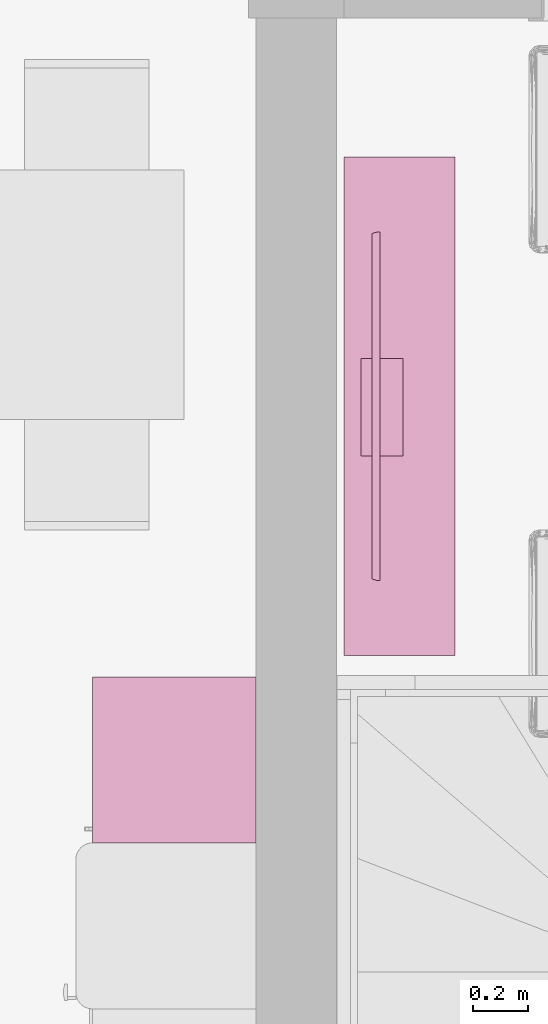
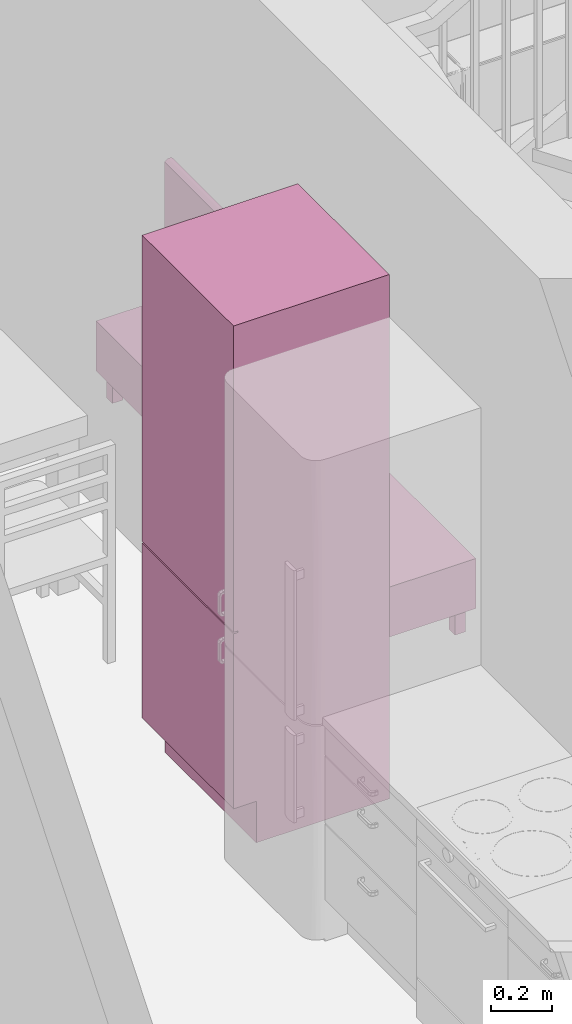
# One storey, part 43 of 65: 2 furnishings.
"""IFC2X3 building model written with IfcOpenShell, lengths in millimetres."""

from ifc_helpers import new_model, entity, si_unit, converted_unit, direction, frame, frame_2d, origin, origin_2d_with_axis, place, context, subcontext, project, spatial, rectangle, extrude, faceted_brep, source, transform, mapped, material, material_list, type_object, type_shapes, element, save


model = new_model("IFC2X3")

# Units and contexts
model_context = context("Model", 3, precision=0.01, world=origin(), true_north=direction((0.0, 1.0)))
body_context = subcontext(model_context, "Body", "Model", "MODEL_VIEW")
ifc_project = project(units=[si_unit("LENGTHUNIT", "METRE", prefix="MILLI"), si_unit("AREAUNIT", "SQUARE_METRE"), si_unit("VOLUMEUNIT", "CUBIC_METRE"), converted_unit("PLANEANGLEUNIT", "DEGREE", entity("IfcPlaneAngleMeasure", 0.017453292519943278), si_unit("PLANEANGLEUNIT", "RADIAN"), dimensions=[0, 0, 0, 0, 0, 0, 0])], contexts=[model_context])

# Site, building, storey, space
site_placement = place(None, origin())
site = spatial("IfcSite", under=ifc_project, at=site_placement, Name="Default", CompositionType="ELEMENT")
building_placement = place(site_placement, origin())
building = spatial("IfcBuilding", under=site, at=building_placement, CompositionType="ELEMENT")
storey_placement = place(building_placement, origin())
storey = spatial("IfcBuildingStorey", under=building, at=storey_placement, Name="Et. 1", CompositionType="ELEMENT", Elevation=0.0)
space_1_placement = place(storey_placement, origin())
space_1 = spatial("IfcSpace", under=storey, at=space_1_placement, Name="113", CompositionType="ELEMENT", InteriorOrExteriorSpace="INTERNAL")

# Furnishing
ifc_material_1 = material(Name="Focus - TV - Sort")
ifc_material_2 = material(Name="Focus - Metall - Krom")
ifc_material_3 = material(Name="Focus - Møbler - Hvit")
ifc_material_list_1 = material_list([ifc_material_1, ifc_material_2, ifc_material_3])
furniture_type_1 = type_object("IfcFurnitureType", Name="TV bord (1):TV bord 1800x400x300", AssemblyPlace="NOTDEFINED", material=ifc_material_list_1)
shared_shape_1 = source(origin(), body_context, "Body", "Brep", [
    faceted_brep([(535.1044252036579, 528.5550193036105, 322.4792366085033), (535.1044252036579, 526.6842377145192, 323.47298199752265), (535.1044252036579, 525.9363454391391, 325.45490298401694), (535.1044252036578, 525.9363454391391, 370.0), (535.1044252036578, 513.9363454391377, 370.0), (535.1044252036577, 474.47496908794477, 322.83260995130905), (535.1044252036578, 474.47496908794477, 300.0), (535.1044252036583, 625.9363454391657, 300.0), (535.1044252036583, 625.9363454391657, 310.0), (182.12411793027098, 474.47496908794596, 322.83260995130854), (182.12411793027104, 513.9363454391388, 370.0), (182.12411793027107, 525.9363454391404, 370.0), (182.12411793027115, 525.9363454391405, 325.4549029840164), (182.12411793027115, 526.6842377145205, 323.4729819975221), (182.12411793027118, 528.5550193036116, 322.47923660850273), (182.12411793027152, 625.9363454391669, 310.0), (182.12411793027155, 625.9363454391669, 300.0), (182.124117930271, 474.47496908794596, 300.0), (519.984899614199, 525.9363454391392, 325.454902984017), (504.86537605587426, 525.9363454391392, 325.45490298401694), (490.9818870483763, 525.9363454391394, 325.45490298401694), (468.92061695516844, 525.9363454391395, 325.4549029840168), (446.8593468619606, 525.9363454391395, 325.4549029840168), (424.7980767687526, 525.9363454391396, 325.45490298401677), (402.73680870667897, 525.9363454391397, 325.45490298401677), (380.67554064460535, 525.9363454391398, 325.45490298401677), (358.6142705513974, 525.9363454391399, 325.45490298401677), (344.73078154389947, 525.9363454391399, 325.4549029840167), (330.84729050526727, 525.9363454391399, 325.45490298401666), (316.963799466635, 525.9363454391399, 325.45490298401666), (303.0803104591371, 525.93634543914, 325.45490298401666), (287.9607869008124, 525.9363454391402, 325.45490298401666), (272.84126334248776, 525.9363454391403, 325.45490298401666), (257.72173978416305, 525.9363454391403, 325.4549029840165), (242.60221419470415, 525.9363454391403, 325.4549029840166), (227.48268860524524, 525.9363454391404, 325.4549029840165), (212.36316504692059, 525.9363454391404, 325.4549029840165), (197.24364148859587, 525.9363454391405, 325.4549029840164), (197.24364190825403, 528.5550193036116, 322.47923660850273), (212.36316595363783, 528.5550193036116, 322.4792366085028), (227.4826899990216, 528.5550193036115, 322.4792366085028), (242.60221397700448, 528.5550193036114, 322.4792366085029), (257.72173795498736, 528.5550193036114, 322.4792366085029), (272.8412620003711, 528.5550193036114, 322.4792366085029), (287.96078604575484, 528.5550193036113, 322.47923660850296), (303.08031002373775, 528.5550193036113, 322.47923660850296), (318.1998340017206, 528.5550193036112, 322.47923660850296), (333.31935804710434, 528.5550193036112, 322.479236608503), (348.43888209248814, 528.5550193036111, 322.479236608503), (363.558406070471, 528.5550193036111, 322.479236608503), (378.6779300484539, 528.5550193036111, 322.4792366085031), (393.7974540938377, 528.555019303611, 322.47923660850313), (408.9169781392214, 528.555019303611, 322.47923660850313), (424.03650211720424, 528.5550193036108, 322.47923660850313), (437.91999249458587, 528.5550193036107, 322.47923660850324), (451.80348287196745, 528.5550193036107, 322.47923660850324), (465.6869732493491, 528.5550193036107, 322.4792366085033), (479.57046362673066, 528.5550193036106, 322.4792366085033), (493.4539540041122, 528.5550193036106, 322.4792366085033), (507.3374443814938, 528.5550193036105, 322.4792366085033), (519.984901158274, 528.5550193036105, 322.47923660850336), (337.68066245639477, 526.6430406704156, 323.52080028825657), (224.27890068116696, 526.6842377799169, 323.47298192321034), (204.80340727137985, 526.6842378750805, 323.4729818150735), (302.46229687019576, 526.7687345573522, 323.3809061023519), (287.96078948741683, 526.6842377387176, 323.47298197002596), (519.6968558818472, 526.6842377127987, 323.47298199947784), (239.91619314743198, 526.6842377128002, 323.4729819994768), (413.76744661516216, 526.6599675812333, 323.5009060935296), (397.7173638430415, 526.6694903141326, 323.4898666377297), (371.11817041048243, 526.6334825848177, 323.5321906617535), (441.27558772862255, 526.8083203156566, 323.34030867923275), (481.02976280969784, 526.5444504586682, 323.6441466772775), (497.92363261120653, 526.7462141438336, 323.40470179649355), (316.9638042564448, 526.6842377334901, 323.47298197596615), (458.7452292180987, 526.6028547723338, 323.56947960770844), (257.72174274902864, 526.6842376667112, 323.4729820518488), (354.04763371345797, 526.7922136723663, 323.35664204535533), (272.84126613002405, 526.6581872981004, 323.5029820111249)], [[[0, 1, 2, 3, 4, 5, 6, 7, 8]], [[9, 10, 11, 12, 13, 14, 15, 16, 17]], [[4, 3, 11, 10]], [[7, 6, 17, 16]], [[3, 2, 18, 19, 20, 21, 22, 23, 24, 25, 26, 27, 28, 29, 30, 31, 32, 33, 34, 35, 36, 37, 12, 11]], [[5, 4, 10, 9]], [[6, 5, 9, 17]], [[8, 7, 16, 15]], [[0, 8, 15, 14, 38, 39, 40, 41, 42, 43, 44, 45, 46, 47, 48, 49, 50, 51, 52, 53, 54, 55, 56, 57, 58, 59, 60]], [[61, 48, 47]], [[62, 63, 36]], [[30, 64, 65]], [[13, 12, 37]], [[18, 2, 1, 66, 19]], [[34, 67, 35]], [[68, 52, 69]], [[70, 69, 50]], [[68, 23, 71]], [[72, 20, 73]], [[62, 39, 63]], [[19, 73, 20]], [[29, 28, 74, 30]], [[31, 30, 65]], [[75, 56, 55]], [[57, 56, 72, 58]], [[44, 43, 65]], [[42, 41, 76, 43]], [[62, 35, 67]], [[13, 37, 63]], [[66, 1, 0, 60, 59]], [[38, 14, 13]], [[41, 40, 67]], [[67, 34, 76]], [[73, 58, 72]], [[63, 39, 38]], [[63, 38, 13]], [[40, 39, 62]], [[67, 40, 62]], [[72, 21, 20]], [[19, 66, 73]], [[49, 77, 70]], [[75, 55, 71]], [[75, 72, 56]], [[21, 72, 75]], [[75, 22, 21]], [[22, 75, 71]], [[68, 24, 23]], [[54, 53, 71, 55]], [[23, 22, 71]], [[37, 36, 63]], [[69, 24, 68]], [[53, 68, 71]], [[70, 26, 25]], [[49, 70, 50]], [[69, 70, 25]], [[25, 24, 69]], [[50, 69, 52, 51]], [[26, 70, 77]], [[61, 28, 27]], [[77, 48, 61]], [[27, 26, 77]], [[77, 49, 48]], [[68, 53, 52]], [[73, 59, 58]], [[76, 33, 78]], [[65, 43, 78]], [[41, 67, 76]], [[46, 45, 74, 47]], [[62, 36, 35]], [[47, 74, 61]], [[73, 66, 59]], [[77, 61, 27]], [[28, 61, 74]], [[74, 45, 64]], [[33, 32, 31, 78]], [[74, 64, 30]], [[76, 34, 33]], [[45, 44, 64]], [[65, 64, 44]], [[76, 78, 43]], [[65, 78, 31]]]),
    faceted_brep([(-274.1123280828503, 543.9363454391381, 1074.9426906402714), (-254.11232808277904, 543.936345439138, 1054.9426906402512), (-254.11232808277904, 543.936345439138, 370.0), (963.4518429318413, 543.9363454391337, 1054.942690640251), (-274.1123280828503, 543.9363454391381, 350.0), (983.45184293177, 543.9363454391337, 1074.9426906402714), (963.4518429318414, 543.9363454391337, 370.0), (983.45184293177, 543.9363454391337, 350.0), (871.2987961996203, 513.9363454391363, 1069.700820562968), (764.3876072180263, 513.9363454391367, 1069.700820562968), (657.4764182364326, 513.9363454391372, 1069.700820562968), (550.5652415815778, 513.9363454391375, 1069.700820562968), (452.61750258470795, 513.9363454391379, 1069.700820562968), (354.6697512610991, 513.9363454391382, 1069.700820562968), (276.7272251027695, 513.9363454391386, 1069.700820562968), (198.78469894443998, 513.9363454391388, 1069.700820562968), (120.84217278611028, 513.936345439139, 1069.700820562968), (42.8996466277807, 513.9363454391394, 1069.700820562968), (-35.042879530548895, 513.9363454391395, 1069.7008205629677), (-112.98540568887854, 513.9363454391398, 1069.700820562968), (-161.959281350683, 513.93634543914, 1069.700820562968), (-268.870458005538, 513.9363454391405, 1069.7008205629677), (-268.87045800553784, 513.9363454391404, 962.7896420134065), (-268.87045800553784, 513.9363454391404, 855.8784560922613), (-268.87045800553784, 513.9363454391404, 782.864436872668), (-268.87045800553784, 513.9363454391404, 709.850410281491), (-268.87045800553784, 513.9363454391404, 619.8878077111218), (-268.87045800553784, 513.9363454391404, 529.9252051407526), (-268.87045800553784, 513.9363454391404, 456.9111859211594), (-268.870458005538, 513.9363454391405, 350.0), (978.2099728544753, 513.936345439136, 350.0), (978.2099728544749, 513.9363454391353, 456.91117949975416), (978.2099728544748, 513.9363454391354, 563.8223660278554), (978.2099728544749, 513.9363454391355, 670.7335525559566), (978.209972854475, 513.9363454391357, 777.6447320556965), (978.209972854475, 513.9363454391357, 850.658757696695), (978.209972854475, 513.9363454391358, 923.6727763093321), (978.209972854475, 513.936345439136, 1016.245227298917), (978.2099728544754, 513.936345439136, 1069.700820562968), (983.45184293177, 540.9363454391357, 1074.9426906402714), (-274.1123280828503, 540.9363454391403, 1074.9426906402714), (-274.11232808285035, 530.9363454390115, 1074.9426906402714), (-167.20113860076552, 530.9363454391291, 1074.9426906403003), (-72.97496770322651, 530.9363454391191, 1074.942690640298), (27.593712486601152, 530.9363454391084, 1074.9426906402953), (128.16239267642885, 530.9363454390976, 1074.942690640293), (235.07358215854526, 530.9363454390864, 1074.9426906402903), (288.52916869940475, 530.9363454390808, 1074.942690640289), (341.98475524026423, 530.9363454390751, 1074.9426906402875), (448.89592832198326, 530.9363454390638, 1074.942690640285), (555.8071178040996, 530.9363454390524, 1074.942690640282), (662.7183072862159, 530.936345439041, 1074.9426906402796), (769.6294803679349, 530.9363454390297, 1074.9426906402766), (876.5406534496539, 530.9363454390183, 1074.942690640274), (983.45184293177, 530.9363454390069, 1074.9426906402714), (983.45184293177, 540.9363454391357, 350.0), (983.4518429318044, 530.9363454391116, 968.0315073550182), (983.4518429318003, 530.9363454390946, 893.7070161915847), (983.4518429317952, 530.936345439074, 803.0891825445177), (983.4518429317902, 530.9363454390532, 712.4713488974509), (983.451842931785, 530.9363454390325, 621.8535152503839), (983.45184293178, 530.9363454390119, 531.2356744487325), (983.4518429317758, 530.9363454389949, 456.911183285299), (983.45184293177, 530.9363454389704, 350.0), (981.0831520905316, 522.3585671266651, 350.0), (-271.7436372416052, 522.3585671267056, 350.0), (-274.1123280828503, 530.9363454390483, 350.0), (-274.1123280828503, 540.9363454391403, 350.0), (-274.1123280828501, 530.9363454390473, 403.4555910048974), (-274.1123280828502, 530.9363454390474, 498.64897772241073), (-274.11232808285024, 530.9363454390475, 572.973466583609), (-274.11232808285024, 530.9363454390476, 647.2979554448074), (-274.1123280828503, 530.9363454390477, 754.2091446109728), (-274.1123280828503, 530.9363454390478, 861.120326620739), (-274.1123280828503, 530.9363454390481, 968.0315086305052), (-254.11232808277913, 540.9363454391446, 1054.9426906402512), (963.4518429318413, 540.9363454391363, 1054.942690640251), (963.4518429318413, 540.9363454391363, 370.0), (-254.1123280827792, 540.9363454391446, 370.0), (-271.6079802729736, 521.9209899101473, 561.039955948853), (-272.0942324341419, 523.5120302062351, 807.6647388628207), (-271.6838000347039, 522.1649725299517, 1000.2475796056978), (-271.52856035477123, 521.6669815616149, 493.4181930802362), (-271.74968537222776, 522.3781866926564, 731.6126583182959), (-271.4604584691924, 521.4504221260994, 664.869113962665), (-271.64314636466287, 522.0339695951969, 424.4548075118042), (-272.03175870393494, 523.3040303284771, 936.0688543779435), (-271.7208591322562, 522.2847625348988, 871.778613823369), (-271.7425576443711, 522.3550660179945, 1072.5729202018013), (-204.66446821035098, 523.3287969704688, 1072.8695772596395), (-137.47234325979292, 522.5092649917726, 1072.6203800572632), (908.7567322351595, 522.1649725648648, 1072.5141626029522), (833.778825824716, 522.5817361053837, 1072.6426227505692), (-62.80278335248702, 522.0049948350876, 1072.4644995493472), (159.81344423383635, 522.0845569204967, 1072.4892230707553), (226.4217047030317, 521.9934399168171, 1072.4609048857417), (315.25696952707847, 521.9504164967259, 1072.4475115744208), (981.0820724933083, 522.3550660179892, 1072.5729202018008), (80.1835543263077, 522.8422800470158, 1072.7222575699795), (501.59138676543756, 522.559214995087, 1072.6357149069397), (392.4883252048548, 522.952944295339, 1072.7559254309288), (3.928384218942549, 521.850551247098, 1072.4163685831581), (566.2823689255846, 522.2857797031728, 1072.5515358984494), (646.0692239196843, 522.4365461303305, 1072.5980210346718), (710.9320272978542, 522.0760981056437, 1072.4865968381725), (772.290516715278, 522.6133420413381, 1072.6523106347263), (981.0831519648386, 522.3585667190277, 494.0734241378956), (981.2237700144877, 522.8172109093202, 560.7957970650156), (981.2987228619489, 523.0638411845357, 930.8692618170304), (981.2065184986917, 522.7606600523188, 863.377909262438), (981.1904531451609, 522.7080691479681, 998.9721352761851), (980.8231085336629, 521.5238622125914, 630.1745518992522), (981.0101229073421, 522.122416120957, 696.939627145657), (981.0709396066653, 522.318980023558, 422.0367118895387), (981.0159296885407, 522.1411428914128, 798.4273735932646)], [[[0, 1, 2]], [[1, 0, 3]], [[2, 4, 0]], [[5, 3, 0]], [[3, 5, 6]], [[7, 6, 5]], [[6, 7, 4]], [[4, 2, 6]], [[8, 9, 10, 11, 12, 13, 14, 15, 16, 17, 18, 19, 20, 21, 22, 23, 24, 25, 26, 27, 28, 29, 30, 31, 32, 33, 34, 35, 36, 37, 38]], [[39, 5, 0, 40, 41, 42, 43, 44, 45, 46, 47, 48, 49, 50, 51, 52, 53, 54]], [[55, 7, 5, 39, 54, 56, 57, 58, 59, 60, 61, 62, 63]], [[4, 7, 55, 63, 64, 30, 29, 65, 66, 67]], [[40, 0, 4, 67, 66, 68, 69, 70, 71, 72, 73, 74, 41]], [[75, 76, 77, 78]], [[3, 76, 75, 1]], [[2, 1, 75, 78]], [[2, 78, 77, 6]], [[6, 77, 76, 3]], [[69, 79, 71, 70]], [[80, 73, 72]], [[41, 74, 81]], [[82, 28, 27]], [[83, 71, 84]], [[79, 82, 27]], [[82, 85, 28]], [[86, 73, 87]], [[41, 81, 88]], [[72, 83, 80]], [[82, 79, 69]], [[73, 80, 87]], [[81, 21, 88]], [[68, 66, 65]], [[29, 28, 85]], [[82, 69, 85]], [[85, 69, 68]], [[84, 26, 25]], [[68, 65, 85]], [[29, 85, 65]], [[27, 26, 79]], [[79, 26, 84]], [[83, 84, 25]], [[79, 84, 71]], [[83, 24, 80]], [[71, 83, 72]], [[86, 81, 74]], [[87, 80, 23]], [[23, 22, 87]], [[22, 81, 86]], [[24, 83, 25]], [[24, 23, 80]], [[21, 81, 22]], [[73, 86, 74]], [[22, 86, 87]], [[42, 89, 90]], [[54, 53, 91]], [[8, 91, 92]], [[18, 93, 19]], [[46, 45, 94]], [[95, 96, 47]], [[19, 90, 20]], [[54, 91, 97]], [[98, 16, 94]], [[99, 12, 11]], [[99, 49, 100]], [[18, 17, 101]], [[46, 94, 95]], [[18, 101, 93]], [[102, 99, 11]], [[103, 102, 10]], [[52, 51, 104]], [[92, 9, 8]], [[91, 38, 97]], [[21, 20, 89]], [[41, 88, 89]], [[90, 89, 20]], [[43, 42, 90]], [[41, 89, 42]], [[44, 101, 98]], [[101, 43, 93]], [[89, 88, 21]], [[12, 99, 100]], [[96, 100, 48]], [[98, 101, 17]], [[43, 101, 44]], [[16, 15, 94]], [[44, 98, 45]], [[98, 17, 16]], [[43, 90, 93]], [[19, 93, 90]], [[94, 15, 95]], [[98, 94, 45]], [[96, 48, 47]], [[46, 95, 47]], [[95, 15, 14]], [[96, 95, 14]], [[14, 13, 96]], [[100, 96, 13]], [[12, 100, 13]], [[49, 48, 100]], [[10, 104, 103]], [[50, 49, 99]], [[9, 92, 105]], [[9, 104, 10]], [[103, 104, 51]], [[51, 50, 103]], [[102, 50, 99]], [[92, 91, 53]], [[38, 91, 8]], [[53, 52, 92]], [[105, 52, 104]], [[10, 102, 11]], [[103, 50, 102]], [[9, 105, 104]], [[92, 52, 105]], [[106, 61, 107]], [[108, 109, 57]], [[61, 106, 62]], [[108, 110, 36]], [[97, 110, 54]], [[111, 60, 112]], [[97, 38, 37]], [[113, 106, 31]], [[56, 108, 57]], [[109, 108, 36]], [[106, 107, 32]], [[63, 62, 113]], [[30, 64, 113]], [[106, 113, 62]], [[36, 110, 37]], [[32, 31, 106]], [[30, 113, 31]], [[113, 64, 63]], [[108, 56, 110]], [[114, 112, 59]], [[109, 114, 58]], [[36, 35, 109]], [[54, 110, 56]], [[97, 37, 110]], [[114, 35, 34]], [[58, 57, 109]], [[61, 60, 107]], [[112, 33, 111]], [[111, 32, 107]], [[111, 107, 60]], [[112, 60, 59]], [[32, 111, 33]], [[114, 59, 58]], [[34, 33, 112]], [[35, 114, 109]], [[112, 114, 34]]]),
    faceted_brep([(1229.6697574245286, 438.9363454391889, 0.0), (1229.6697574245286, 478.9363454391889, 0.0), (1229.6697574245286, 478.9363454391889, 80.0), (1229.669757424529, 748.9363454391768, 80.0), (1229.669757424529, 748.9363454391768, 0.0), (1229.669757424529, 788.9363454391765, 0.0), (1229.669757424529, 788.9363454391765, 100.0), (1229.6697574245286, 438.9363454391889, 100.0), (1189.6697574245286, 438.936345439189, 0.0), (1189.6697574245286, 438.936345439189, 100.0), (1189.669757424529, 788.9363454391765, 100.0), (1189.669757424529, 788.9363454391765, 0.0), (1189.669757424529, 748.9363454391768, 0.0), (1189.669757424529, 748.9363454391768, 80.0), (1189.6697574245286, 478.936345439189, 80.0), (1189.6697574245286, 478.936345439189, 0.0)], [[[0, 1, 2, 3, 4, 5, 6, 7]], [[8, 9, 10, 11, 12, 13, 14, 15]], [[1, 0, 8, 15]], [[2, 1, 15, 14]], [[3, 2, 14, 13]], [[4, 3, 13, 12]], [[5, 4, 12, 11]], [[6, 5, 11, 10]], [[7, 6, 10, 9]], [[0, 7, 9, 8]]]),
    faceted_brep([(-480.33024257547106, 438.9363454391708, 0.0), (-480.330242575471, 478.93634543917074, 0.0), (-480.330242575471, 478.93634543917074, 80.0), (-480.33024257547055, 748.9363454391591, 80.0), (-480.33024257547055, 748.9363454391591, 0.0), (-480.3302425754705, 788.9363454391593, 0.0), (-480.3302425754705, 788.9363454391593, 100.0), (-480.33024257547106, 438.9363454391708, 100.0), (-520.3302425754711, 438.93634543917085, 0.0), (-520.3302425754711, 438.93634543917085, 100.0), (-520.3302425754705, 788.9363454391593, 100.0), (-520.3302425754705, 788.9363454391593, 0.0), (-520.3302425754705, 748.9363454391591, 0.0), (-520.3302425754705, 748.9363454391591, 80.0), (-520.330242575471, 478.93634543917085, 80.0), (-520.330242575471, 478.93634543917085, 0.0)], [[[0, 1, 2, 3, 4, 5, 6, 7]], [[8, 9, 10, 11, 12, 13, 14, 15]], [[1, 0, 8, 15]], [[2, 1, 15, 14]], [[3, 2, 14, 13]], [[4, 3, 13, 12]], [[5, 4, 12, 11]], [[6, 5, 11, 10]], [[7, 6, 10, 9]], [[0, 7, 9, 8]]]),
    faceted_brep([(1189.6697574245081, 478.9363454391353, 80.0), (-480.3302425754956, 478.9363454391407, 80.0), (-480.3302425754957, 478.9363454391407, 100.0), (1189.6697574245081, 478.9363454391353, 100.0), (1189.669757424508, 438.9363454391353, 80.0), (1189.669757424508, 438.9363454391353, 100.0), (-480.3302425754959, 438.9363454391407, 100.0), (-480.33024257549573, 438.9363454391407, 80.0)], [[[0, 1, 2, 3]], [[4, 5, 6, 7]], [[1, 0, 4, 7]], [[2, 1, 7, 6]], [[3, 2, 6, 5]], [[0, 3, 5, 4]]]),
    faceted_brep([(1189.6697574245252, 788.9363454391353, 80.0), (-480.33024257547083, 788.9363454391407, 80.0), (-480.3302425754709, 788.9363454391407, 100.0), (1189.6697574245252, 788.9363454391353, 100.0), (1189.6697574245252, 748.9363454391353, 80.0), (1189.6697574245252, 748.9363454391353, 100.0), (-480.330242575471, 748.9363454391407, 100.0), (-480.330242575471, 748.9363454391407, 80.0)], [[[0, 1, 2, 3]], [[4, 5, 6, 7]], [[1, 0, 4, 7]], [[2, 1, 7, 6]], [[3, 2, 6, 5]], [[0, 3, 5, 4]]]),
    faceted_brep([(658.003090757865, 813.9363454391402, 150.0), (628.003090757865, 813.9363454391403, 150.0), (628.003090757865, 813.9363454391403, 250.0), (658.003090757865, 813.9363454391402, 250.0), (658.0030907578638, 423.93634543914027, 150.0), (658.0030907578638, 423.93634543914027, 250.0), (628.0030907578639, 423.9363454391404, 250.0), (628.0030907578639, 423.9363454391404, 150.0)], [[[0, 1, 2, 3]], [[4, 5, 6, 7]], [[1, 0, 4, 7]], [[2, 1, 7, 6]], [[3, 2, 6, 5]], [[0, 3, 5, 4]]]),
    faceted_brep([(81.33642409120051, 813.9363454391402, 150.0), (51.33642409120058, 813.9363454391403, 150.0), (51.33642409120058, 813.9363454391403, 250.0), (81.33642409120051, 813.9363454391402, 250.0), (81.33642409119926, 423.93634543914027, 150.0), (81.33642409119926, 423.93634543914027, 250.0), (51.33642409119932, 423.9363454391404, 250.0), (51.33642409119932, 423.9363454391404, 150.0)], [[[0, 1, 2, 3]], [[4, 5, 6, 7]], [[1, 0, 4, 7]], [[2, 1, 7, 6]], [[3, 2, 6, 5]], [[0, 3, 5, 4]]]),
    faceted_brep([(1254.6697574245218, 813.9363454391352, 300.0), (1254.6697574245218, 813.9363454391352, 100.0), (-545.3302425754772, 813.936345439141, 100.0), (-545.3302425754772, 813.936345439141, 300.0), (1204.669757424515, 813.9363454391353, 150.0), (1204.669757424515, 813.9363454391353, 250.0), (-495.33024257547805, 813.9363454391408, 250.0), (-495.33024257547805, 813.9363454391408, 150.0), (1254.6697574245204, 413.9363454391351, 300.0), (-545.3302425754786, 413.93634543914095, 300.0), (-545.3302425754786, 413.93634543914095, 100.0), (1254.6697574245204, 413.9363454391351, 100.0), (1254.6697574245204, 423.93634543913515, 100.0), (-545.3302425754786, 423.93634543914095, 100.0), (-545.3302425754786, 423.93634543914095, 300.0), (1254.6697574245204, 423.93634543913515, 300.0), (1204.6697574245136, 423.9363454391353, 250.0), (-495.3302425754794, 423.93634543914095, 250.0), (-495.3302425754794, 423.93634543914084, 150.0), (1204.6697574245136, 423.9363454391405, 150.0)], [[[0, 1, 2, 3], [4, 5, 6, 7]], [[8, 9, 10, 11]], [[2, 1, 12, 11, 10, 13]], [[0, 3, 14, 9, 8, 15]], [[6, 5, 16, 17]], [[4, 7, 18, 19]], [[1, 0, 15, 8, 11, 12]], [[3, 2, 13, 10, 9, 14]], [[5, 4, 19, 16]], [[7, 6, 17, 18]], [[17, 16, 19, 18]]]),
])
type_shapes(furniture_type_1, [shared_shape_1])
furnishing_1_placement = place(space_1_placement, frame((27937.073241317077, 14687.916491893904, 0.0), z_axis=(0.0, 0.0, 1.0), x_axis=(0.0, -1.0, 0.0)))
element("IfcFurnishingElement", 1, at=furnishing_1_placement, inside=space_1, type_object=furniture_type_1, material=ifc_material_list_1, Name="TV bord (1):TV bord 1800x400x300", context=body_context, shape_type="MappedRepresentation", body=[
    mapped(shared_shape_1, transform((0.0, 0.0, 0.0), scale=1.0)),
])

# Space
space_2_placement = place(storey_placement, origin())
space_2 = spatial("IfcSpace", under=storey, at=space_2_placement, Name="109", CompositionType="ELEMENT", InteriorOrExteriorSpace="INTERNAL")

# Furnishing
ifc_material_4 = material(Name="Focus - Kjøkken - Front")
ifc_material_5 = material(Name="Focus - Kjøkken - Skapstamme")
ifc_material_list_2 = material_list([ifc_material_4, ifc_material_5])
furniture_type_2 = type_object("IfcFurnitureType", Name="Focus - Kjøkken - Høyskap 2 dører:600 mm", AssemblyPlace="NOTDEFINED", material=ifc_material_list_2)
shared_shape_2 = source(origin(), body_context, "Body", "SweptSolid", [
    extrude(rectangle(XDim=599.9999999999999, YDim=503.9999999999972, at=origin_2d_with_axis()), frame((-254.58506095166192, 499.81681120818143, 0.0), z_axis=(0.0, 0.0, 1.0), x_axis=(-1.0, 0.0, 0.0)), (0.0, 0.0, 1.0), 165.99999999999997),
    extrude(rectangle(XDim=16.000000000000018, YDim=600.0000000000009, at=frame_2d((-1.687538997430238e-14, 0.0), x_axis=(1.0, 0.0))), frame((-254.58506095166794, 169.81681120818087, 873.0), z_axis=(0.0, 0.0, 1.0), x_axis=(0.0, -1.0, 0.0)), (0.0, 0.0, 1.0), 1226.9999999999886),
    extrude(rectangle(XDim=16.000000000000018, YDim=600.0000000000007, at=frame_2d((-1.687538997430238e-14, -2.842170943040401e-14), x_axis=(1.0, 0.0))), frame((-254.585060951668, 169.81681120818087, 166.0), z_axis=(0.0, 0.0, 1.0), x_axis=(0.0, -1.0, 0.0)), (0.0, 0.0, 1.0), 701.0000000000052),
    extrude(rectangle(XDim=573.9999999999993, YDim=599.9999999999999, at=frame_2d((-2.842170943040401e-14, 0.0), x_axis=(1.0, 0.0))), frame((-254.5850609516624, 464.81681120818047, 166.0), z_axis=(0.0, 0.0, 1.0), x_axis=(0.0, 1.0, 0.0)), (0.0, 0.0, 1.0), 1934.0000000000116),
])
type_shapes(furniture_type_2, [shared_shape_2])
furnishing_2_placement = place(space_2_placement, frame((27280.192775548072, 12801.473658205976, 0.0), z_axis=(0.0, 0.0, 1.0), x_axis=(0.0, -1.0, 0.0)))
element("IfcFurnishingElement", 2, at=furnishing_2_placement, inside=space_2, type_object=furniture_type_2, material=ifc_material_list_2, Name="Focus - Kjøkken - Høyskap 2 dører:600 mm", context=body_context, shape_type="MappedRepresentation", body=[
    mapped(shared_shape_2, transform((0.0, 0.0, 0.0), scale=1.0)),
])

save(model, "model.ifc")
